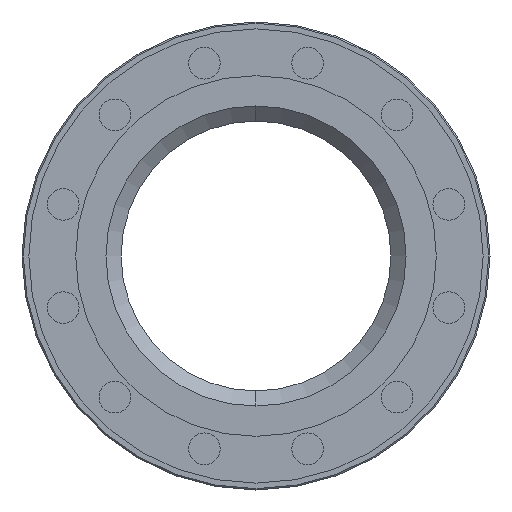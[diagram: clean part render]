
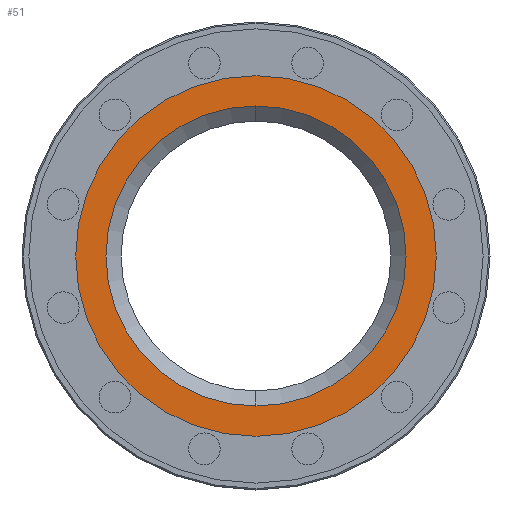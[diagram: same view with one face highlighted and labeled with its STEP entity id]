
A CAD part, left-side view. The second image highlights one B-rep face of the part: STEP entity #51.
In plain terms, the highlighted planar face has unit normal (-1, 0, 0).
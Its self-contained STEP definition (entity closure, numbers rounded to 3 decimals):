
#51=ADVANCED_FACE('',(#319,#320),#318,.T.);
#318=PLANE('',#1721);
#319=FACE_OUTER_BOUND('',#1722,.T.);
#320=FACE_BOUND('',#1723,.T.);
#1718=CARTESIAN_POINT('',(0.,-236.899,-272.));
#1719=DIRECTION('',(-1.,0.,0.));
#1720=DIRECTION('',(0.,0.,1.));
#1721=AXIS2_PLACEMENT_3D('',#1718,#1719,#1720);
#1722=EDGE_LOOP('',(#2849,#2850));
#1723=EDGE_LOOP('',(#2851,#2852));
#2849=ORIENTED_EDGE('',*,*,#3520,.T.);
#2850=ORIENTED_EDGE('',*,*,#3521,.T.);
#2851=ORIENTED_EDGE('',*,*,#3522,.F.);
#2852=ORIENTED_EDGE('',*,*,#3523,.F.);
#3520=EDGE_CURVE('',#4371,#4372,#4373,.T.);
#3521=EDGE_CURVE('',#4372,#4371,#4379,.T.);
#3522=EDGE_CURVE('',#4385,#4386,#4387,.T.);
#3523=EDGE_CURVE('',#4386,#4385,#4393,.T.);
#4371=VERTEX_POINT('',#6441);
#4372=VERTEX_POINT('',#6442);
#4373=CIRCLE('',#6446,131.);
#4379=CIRCLE('',#6450,131.);
#4385=VERTEX_POINT('',#6451);
#4386=VERTEX_POINT('',#6452);
#4387=CIRCLE('',#6456,109.);
#4393=CIRCLE('',#6460,109.);
#6441=CARTESIAN_POINT('',(0.,0.,131.));
#6442=CARTESIAN_POINT('',(0.,0.,-131.));
#6443=CARTESIAN_POINT('',(0.,0.,0.));
#6444=DIRECTION('',(-1.,0.,0.));
#6445=DIRECTION('',(0.,0.,1.));
#6446=AXIS2_PLACEMENT_3D('',#6443,#6444,#6445);
#6447=CARTESIAN_POINT('',(0.,0.,0.));
#6448=DIRECTION('',(-1.,0.,0.));
#6449=DIRECTION('',(0.,0.,1.));
#6450=AXIS2_PLACEMENT_3D('',#6447,#6448,#6449);
#6451=CARTESIAN_POINT('',(0.,0.,-109.));
#6452=CARTESIAN_POINT('',(0.,0.,109.));
#6453=CARTESIAN_POINT('',(0.,0.,0.));
#6454=DIRECTION('',(-1.,0.,0.));
#6455=DIRECTION('',(0.,0.,1.));
#6456=AXIS2_PLACEMENT_3D('',#6453,#6454,#6455);
#6457=CARTESIAN_POINT('',(0.,0.,0.));
#6458=DIRECTION('',(-1.,0.,0.));
#6459=DIRECTION('',(0.,0.,1.));
#6460=AXIS2_PLACEMENT_3D('',#6457,#6458,#6459);
